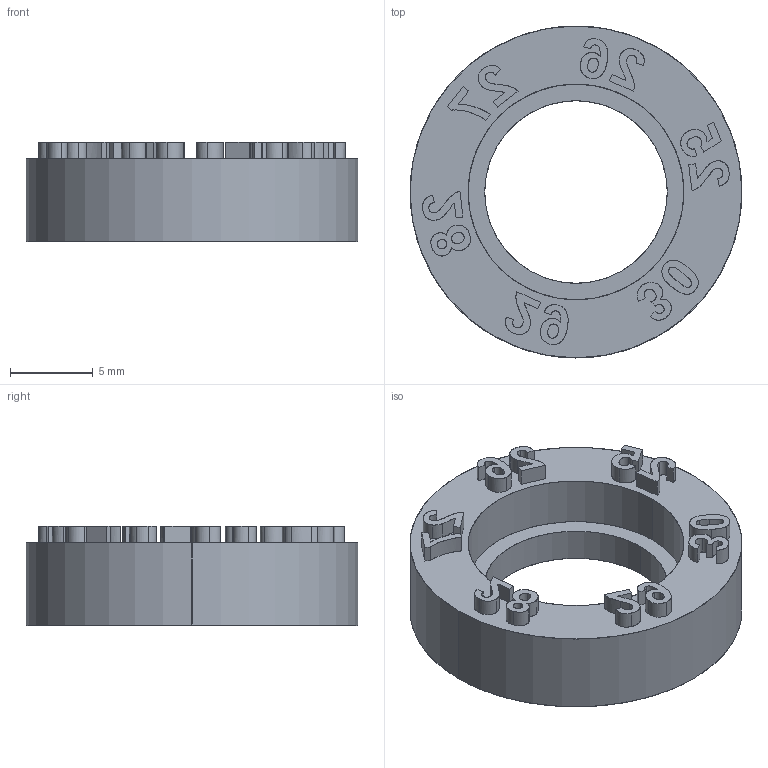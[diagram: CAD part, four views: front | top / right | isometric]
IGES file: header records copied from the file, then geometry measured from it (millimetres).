
Start section: SolidWorks IGES file using analytic representation for surfaces
Global section: file name: C:\Users\365admin\AppData\Local\Temp\InFlowConvert3DWorking\DLBRY20-25.igs; native system: SolidWorks 2019; preprocessor: SolidWorks 2019; author: 365admin; date: 220318.214502; units: millimetre
Bounding box: 20 x 20 x 6 mm (x, y, z)
Surface area: 1069.3 mm2 (no closed solid volume)
Topology: 0 solids, 0 shells, 187 faces, 2965 edges, 2965 vertices
Faces by surface type: bspline 181, revolution 6
